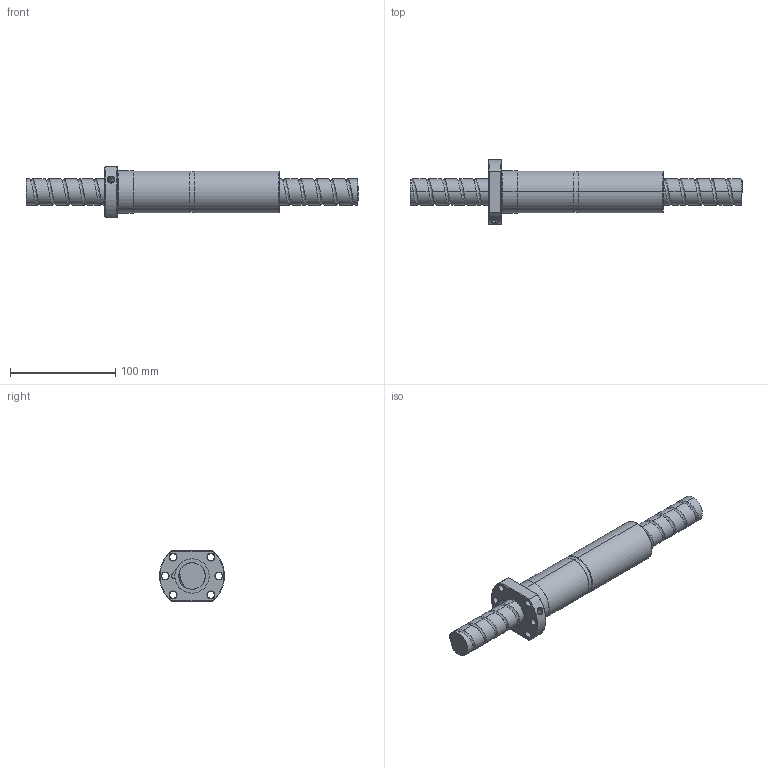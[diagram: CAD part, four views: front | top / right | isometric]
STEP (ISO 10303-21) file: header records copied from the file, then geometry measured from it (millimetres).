
FILE_DESCRIPTION (( 'STEP AP214' ), '1' );
FILE_NAME ('FDDC02515T4-B-C.STEP', '2010-07-07T01:19:48', ( 'XPAUTO' ), ( 'XPAUTO' ), 'SwSTEP 2.0', 'SolidWorks 2007', '' );
FILE_SCHEMA (( 'AUTOMOTIVE_DESIGN' ));
Length unit declared in the file: millimetre
Products named in the file (3): FDDC02515T4-B-C.sldasm-Part-1_預設; FDDC02515T4-B-C; FDDC02515T4-B-C.sldasm-Part-2_預設
Assembly tree (2 placements, depth 2):
  FDDC02515T4-B-C
    FDDC02515T4-B-C.sldasm-Part-1_預設
    FDDC02515T4-B-C.sldasm-Part-2_預設
Bounding box: 316 x 61.8 x 48 mm (x, y, z)
Volume: 287580.3 mm3; surface area: 67989.8 mm2
Topology: 2 solids, 2 shells, 148 faces, 370 edges, 231 vertices
Faces by surface type: cylinder 87, cone 24, plane 22, torus 10, bspline 5
Entity records: 26924 total; most frequent: CARTESIAN_POINT 23424, ORIENTED_EDGE 740, DIRECTION 676, EDGE_CURVE 370, AXIS2_PLACEMENT_3D 274, VERTEX_POINT 231, EDGE_LOOP 169, FACE_OUTER_BOUND 148
